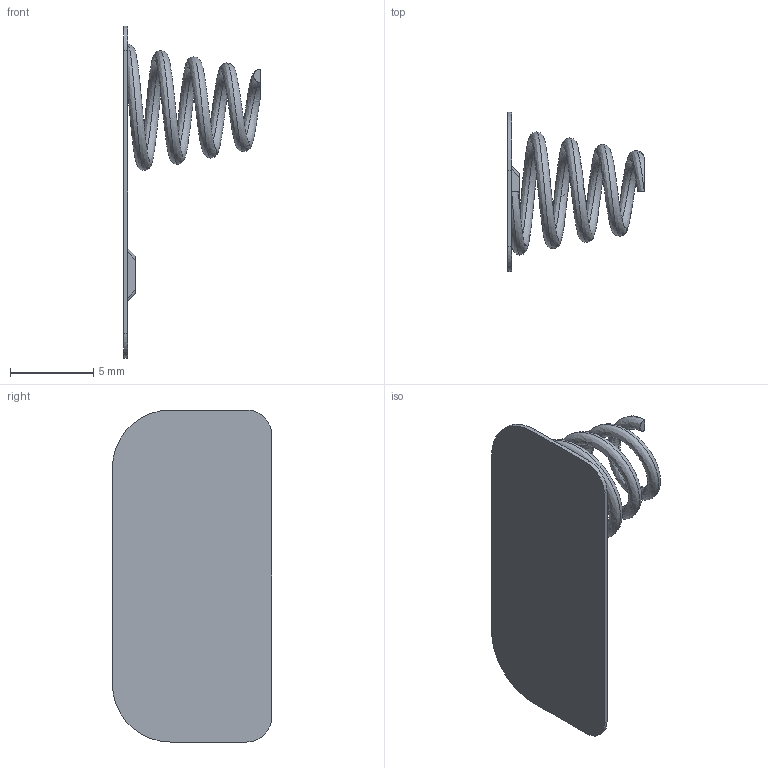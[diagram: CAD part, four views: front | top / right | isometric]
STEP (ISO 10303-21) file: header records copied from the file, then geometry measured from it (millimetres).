
FILE_DESCRIPTION((''),'2;1');
FILE_NAME('PRT0001','2024-04-09T20:54:17',('qinghui.yi'),(''),'CREO PARAMETRIC BY PTC INC, 2019164','CREO PARAMETRIC BY PTC INC, 2019164','');
FILE_SCHEMA(('CONFIG_CONTROL_DESIGN','SHAPE_APPEARANCE_LAYERS_GROUPS'));
Length unit declared in the file: millimetre
Products named in the file (1): PRT0001
Bounding box: 8.24 x 9.6 x 20 mm (x, y, z)
Volume: 82.1 mm3; surface area: 554.6 mm2
Topology: 1 solids, 1 shells, 24 faces, 61 edges, 46 vertices
Faces by surface type: plane 14, cylinder 8, bspline 2
Entity records: 2313 total; most frequent: CARTESIAN_POINT 1366, COLOUR_RGB 312, ORIENTED_EDGE 112, DIRECTION 101, EDGE_CURVE 56, VECTOR 39, LINE 39, VERTEX_POINT 36
